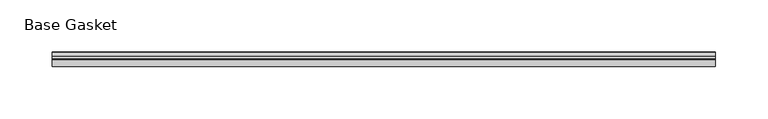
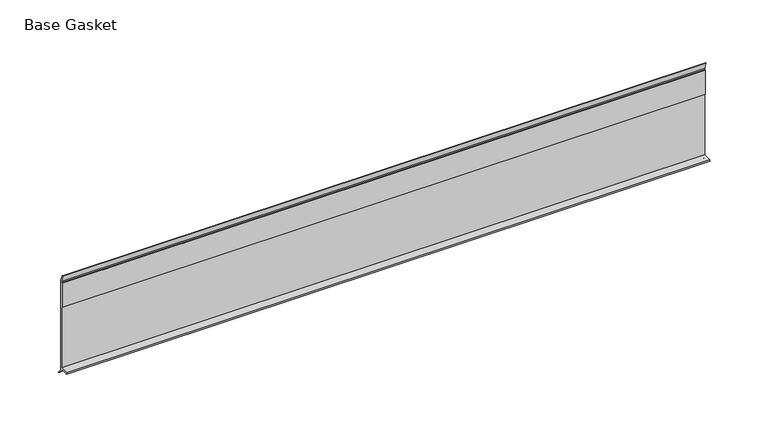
"""IFC4 building model written with IfcOpenShell, lengths in millimetres: furniture geometry, Gasket-Teknion-FHGB-AI_Healthcare-R2021 : Base Gasket."""

from ifc_helpers import new_model, si_unit, frame, origin, place, context, project, spatial, polyline, outline, extrude, source, transform, mapped, element, save


def base_gasket_dd8f29b9(model_context):
    return source(origin(), model_context, "Body", "SweptSolid", [
        extrude(outline(polyline([(3.7283812, 98.4568417), (3.7283812, 4.3498477), (7.4222115, 0.6560174), (7.8482342, 0.0), (6.8281054, 0.3520979), (2.2043812, 4.3498477), (2.1334222, 6.3818476), (-6.2405171, 6.3818476), (-6.2405171, 7.9398773), (2.2043812, 7.9398773), (2.2043812, 71.4693447), (1.4106313, 71.4693447), (1.4106313, 96.8693477), (2.2043812, 96.8693477), (2.2043812, 98.4568417), (0.6755308, 104.4162708), (0.6755308, 105.2002997), (1.1891543, 104.587663), (3.7283812, 98.4568417)])), frame((-1527.8982117, 0.0, 0.0), z_axis=(1.0, 0.0, 0.0), x_axis=(0.0, 1.0, 0.0)), (0.0, 0.0, 1.0), 635.0),
    ])


if __name__ == "__main__":
    model = new_model("IFC4")
    model_context = context("Model", 3, world=origin())
    ifc_project = project(units=[si_unit("LENGTHUNIT", "METRE", prefix="MILLI")], contexts=[model_context])
    site = spatial("IfcSite", under=ifc_project)
    building = spatial("IfcBuilding", under=site)
    placement = place(None, origin())
    base_gasket_shape = base_gasket_dd8f29b9(model_context)
    element("IfcFurniture", 1, ObjectType="Gasket-Teknion-FHGB-AI_Healthcare-R2021 : Base Gasket", at=placement, inside=building, context=model_context, shape_type="MappedRepresentation", body=[
        mapped(base_gasket_shape, transform((0.0, 0.0, 0.0), x_axis=(1.0, 0.0, 0.0), y_axis=(0.0, 1.0, 0.0), z_axis=(0.0, 0.0, 1.0))),
    ])
    save(model, "model.ifc")
